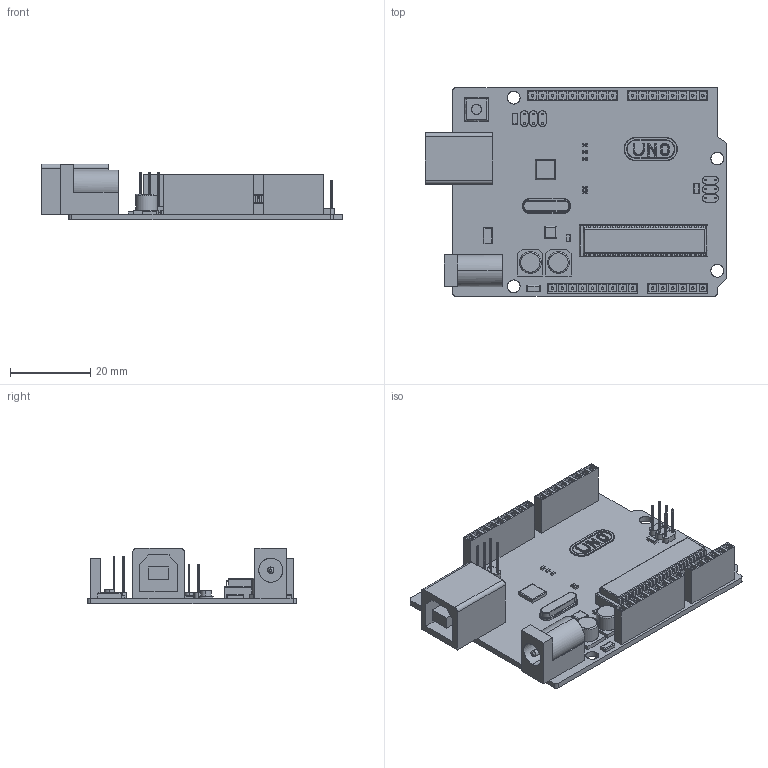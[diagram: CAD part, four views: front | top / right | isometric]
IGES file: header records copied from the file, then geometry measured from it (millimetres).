
Start section: SolidWorks IGES file using analytic representation for surfaces
Global section: file name: D:\Documents\BT SOLID\ARDUINO UNO R3 IGES.IGS; native system: SolidWorks 2018; preprocessor: SolidWorks 2018; author: DANGTU; date: 221116.081451; units: millimetre
Bounding box: 75.3 x 52.08 x 13.9 mm (x, y, z)
Surface area: 15432.3 mm2 (no closed solid volume)
Topology: 0 solids, 0 shells, 1149 faces, 9456 edges, 9456 vertices
Faces by surface type: bspline 790, revolution 359
